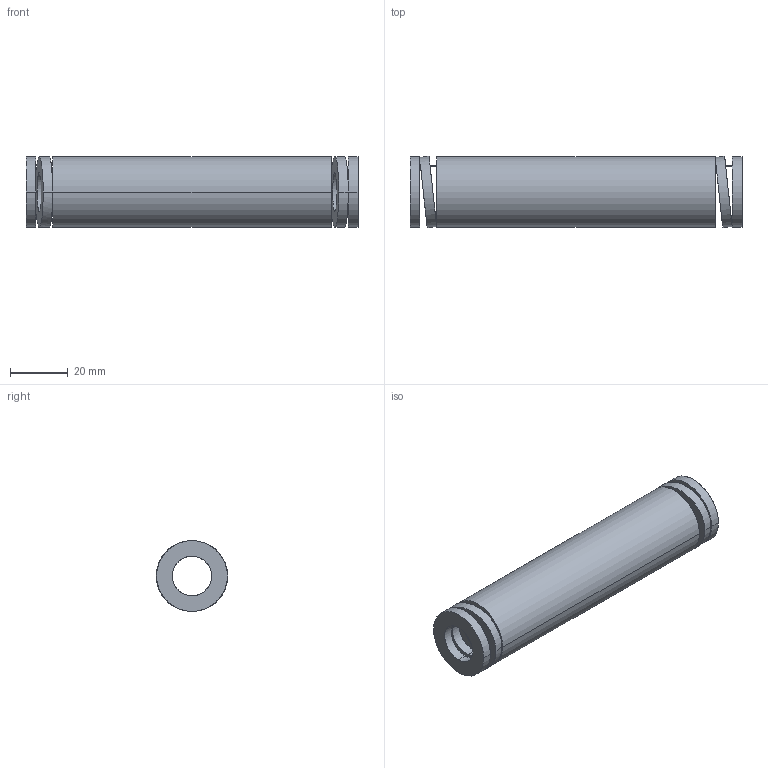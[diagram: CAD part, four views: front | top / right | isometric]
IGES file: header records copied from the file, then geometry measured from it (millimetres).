
Start section: START RECORD GO HERE.
Global section: file name: 392-B25-115.igs; native system: DASSAULT SYSTEMES CATIA V5 R20 - www.3ds.com; preprocessor: CATIA Version 5 Release 20 ; author: Utente; organization: NB04-ASUS; date: 20210813.094547; units: millimetre
Bounding box: 115 x 24.71 x 24.5 mm (x, y, z)
Surface area: 16389.3 mm2 (no closed solid volume)
Topology: 0 solids, 0 shells, 38 faces, 184 edges, 184 vertices
Faces by surface type: revolution 28, plane 10
